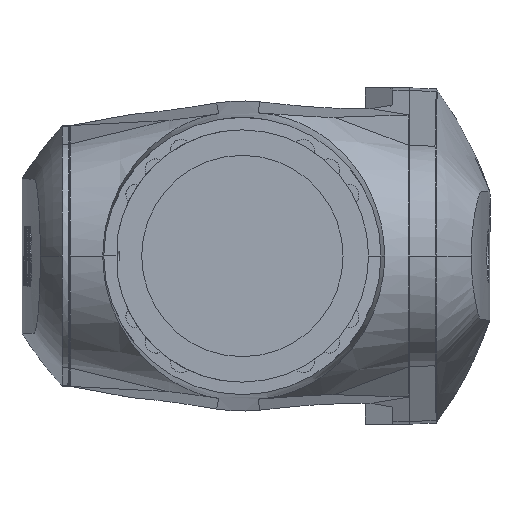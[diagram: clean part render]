
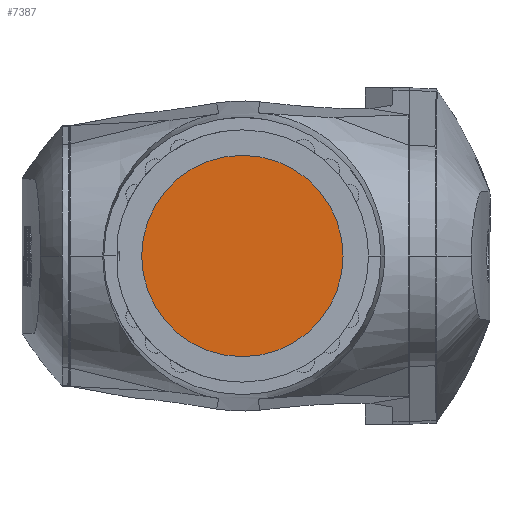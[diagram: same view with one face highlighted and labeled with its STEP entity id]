
A CAD part, left-side view. The second image highlights one B-rep face of the part: STEP entity #7387.
In plain terms, the highlighted planar face has unit normal (-1, 0, 0).
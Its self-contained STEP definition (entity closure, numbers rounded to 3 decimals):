
#7387 = ADVANCED_FACE ( 'NONE', ( #17164 ), #10197, .F. ) ;
#9779 = EDGE_LOOP ( 'NONE', ( #27961, #28103 ) ) ;
#10189 = DIRECTION ( 'NONE',  ( 0., 0., 1. ) ) ;
#10190 = DIRECTION ( 'NONE',  ( 1., 0., 0. ) ) ;
#10195 = CARTESIAN_POINT ( 'NONE',  ( 45., 0., 2339.952 ) ) ;
#10197 = PLANE ( 'NONE',  #15043 ) ;
#11796 = CIRCLE ( 'NONE', #24650, 85. ) ;
#13626 = EDGE_CURVE ( 'NONE', #28565, #28341, #18378, .T. ) ;
#13837 = EDGE_CURVE ( 'NONE', #28341, #28565, #11796, .T. ) ;
#15043 = AXIS2_PLACEMENT_3D ( 'NONE', #10195, #10190, #10189 ) ;
#17164 = FACE_OUTER_BOUND ( 'NONE', #9779, .T. ) ;
#18378 = CIRCLE ( 'NONE', #24579, 85. ) ;
#18629 = CARTESIAN_POINT ( 'NONE',  ( 45., 0., 2175. ) ) ;
#24247 = CARTESIAN_POINT ( 'NONE',  ( 45., 0., 2260. ) ) ;
#24248 = DIRECTION ( 'NONE',  ( 1., 0., 0. ) ) ;
#24249 = DIRECTION ( 'NONE',  ( 0., 0., 1. ) ) ;
#24579 = AXIS2_PLACEMENT_3D ( 'NONE', #24247, #24248, #24249 ) ;
#24650 = AXIS2_PLACEMENT_3D ( 'NONE', #26275, #26276, #26277 ) ;
#26275 = CARTESIAN_POINT ( 'NONE',  ( 45., 0., 2260. ) ) ;
#26276 = DIRECTION ( 'NONE',  ( 1., 0., 0. ) ) ;
#26277 = DIRECTION ( 'NONE',  ( 0., 0., 1. ) ) ;
#26815 = CARTESIAN_POINT ( 'NONE',  ( 45., 0., 2345. ) ) ;
#27961 = ORIENTED_EDGE ( 'NONE', *, *, #13837, .F. ) ;
#28103 = ORIENTED_EDGE ( 'NONE', *, *, #13626, .F. ) ;
#28341 = VERTEX_POINT ( 'NONE', #26815 ) ;
#28565 = VERTEX_POINT ( 'NONE', #18629 ) ;
